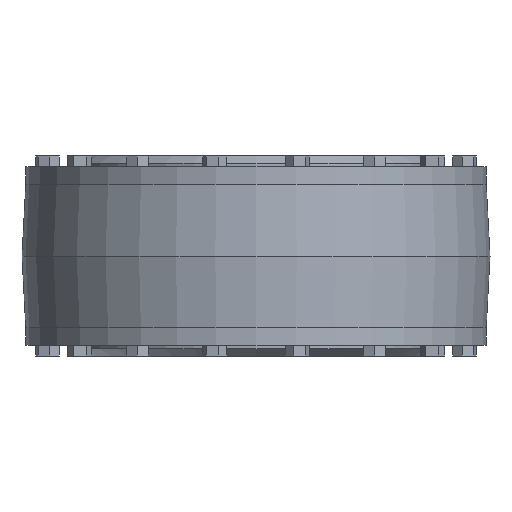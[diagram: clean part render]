
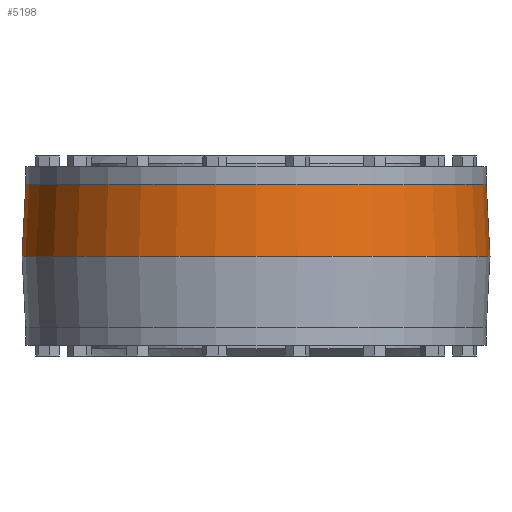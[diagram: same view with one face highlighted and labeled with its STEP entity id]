
A CAD part, front view. The second image highlights one B-rep face of the part: STEP entity #5198.
In plain terms, the highlighted conical face has half-angle 3 degrees and reference radius 208.056 mm.
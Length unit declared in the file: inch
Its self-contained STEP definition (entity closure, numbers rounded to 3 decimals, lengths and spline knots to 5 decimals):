
#66=CONICAL_SURFACE('',#5555,8.19116,0.052);
#188=CIRCLE('',#5553,8.125);
#189=CIRCLE('',#5554,8.125);
#190=CIRCLE('',#5556,8.25733);
#191=CIRCLE('',#5557,8.25733);
#450=FACE_OUTER_BOUND('',#757,.T.);
#757=EDGE_LOOP('',(#4421,#4422,#4423,#4424,#4425,#4426));
#1354=LINE('',#8268,#1951);
#1951=VECTOR('',#6843,8.19116);
#2410=VERTEX_POINT('',#8258);
#2411=VERTEX_POINT('',#8259);
#2412=VERTEX_POINT('',#8264);
#2413=VERTEX_POINT('',#8265);
#3081=EDGE_CURVE('',#2410,#2411,#188,.T.);
#3082=EDGE_CURVE('',#2411,#2410,#189,.T.);
#3084=EDGE_CURVE('',#2412,#2413,#190,.T.);
#3085=EDGE_CURVE('',#2413,#2412,#191,.T.);
#3086=EDGE_CURVE('',#2413,#2411,#1354,.T.);
#4421=ORIENTED_EDGE('',*,*,#3084,.F.);
#4422=ORIENTED_EDGE('',*,*,#3085,.F.);
#4423=ORIENTED_EDGE('',*,*,#3086,.T.);
#4424=ORIENTED_EDGE('',*,*,#3082,.T.);
#4425=ORIENTED_EDGE('',*,*,#3081,.T.);
#4426=ORIENTED_EDGE('',*,*,#3086,.F.);
#5198=ADVANCED_FACE('',(#450),#66,.T.);
#5553=AXIS2_PLACEMENT_3D('',#8260,#6832,#6833);
#5554=AXIS2_PLACEMENT_3D('',#8261,#6834,#6835);
#5555=AXIS2_PLACEMENT_3D('',#8263,#6837,#6838);
#5556=AXIS2_PLACEMENT_3D('',#8266,#6839,#6840);
#5557=AXIS2_PLACEMENT_3D('',#8267,#6841,#6842);
#6832=DIRECTION('center_axis',(0.,0.,-1.));
#6833=DIRECTION('ref_axis',(1.,0.,0.));
#6834=DIRECTION('center_axis',(0.,0.,-1.));
#6835=DIRECTION('ref_axis',(1.,0.,0.));
#6837=DIRECTION('center_axis',(0.,0.,-1.));
#6838=DIRECTION('ref_axis',(0.,1.,0.));
#6839=DIRECTION('center_axis',(0.,0.,-1.));
#6840=DIRECTION('ref_axis',(1.,0.,0.));
#6841=DIRECTION('center_axis',(0.,0.,-1.));
#6842=DIRECTION('ref_axis',(1.,0.,0.));
#6843=DIRECTION('',(0.,0.052,0.999));
#8258=CARTESIAN_POINT('',(0.,8.125,2.525));
#8259=CARTESIAN_POINT('',(0.,-8.125,2.525));
#8260=CARTESIAN_POINT('Origin',(0.,0.,2.525));
#8261=CARTESIAN_POINT('Origin',(0.,0.,2.525));
#8263=CARTESIAN_POINT('Origin',(0.,0.,1.2625));
#8264=CARTESIAN_POINT('',(0.,8.25733,0.));
#8265=CARTESIAN_POINT('',(0.,-8.25733,0.));
#8266=CARTESIAN_POINT('Origin',(0.,0.,0.));
#8267=CARTESIAN_POINT('Origin',(0.,0.,0.));
#8268=CARTESIAN_POINT('',(0.,-8.19116,1.2625));
